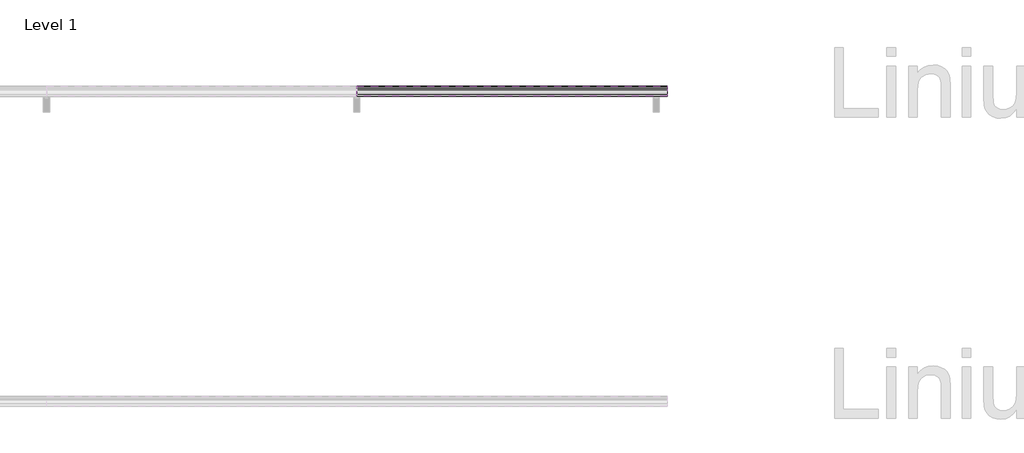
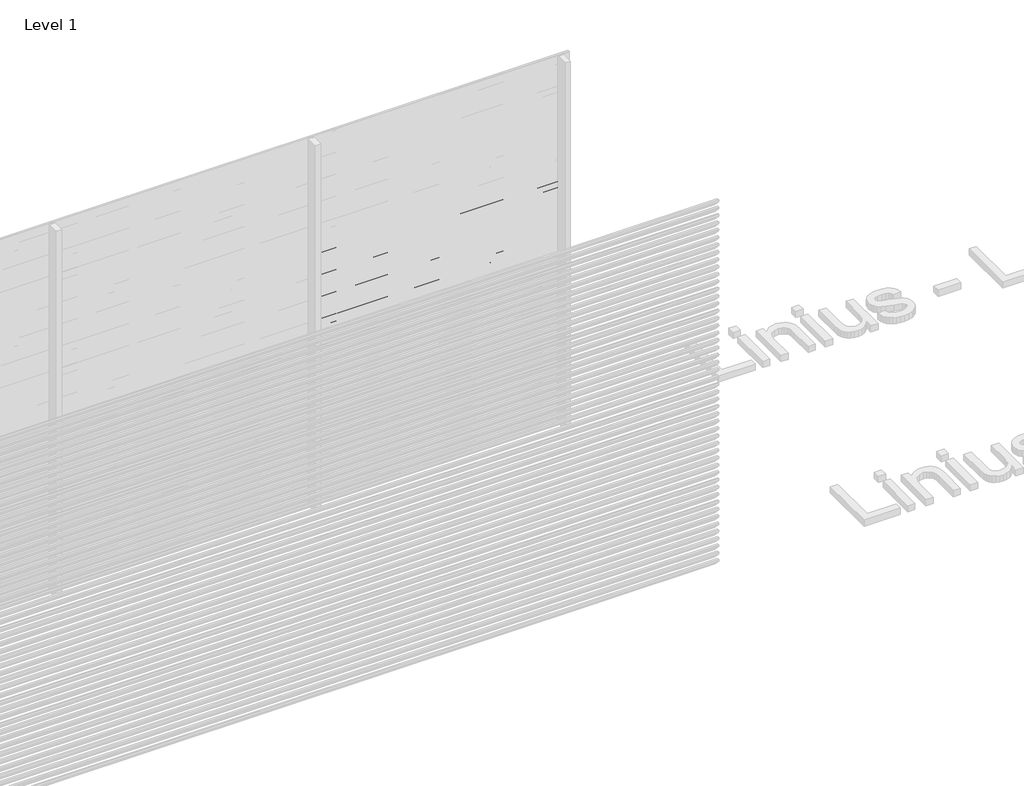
# One storey, part 64 of 153: 33 proxies.
"""IFC4 building model written with IfcOpenShell, lengths in millimetres."""

from ifc_helpers import new_model, si_unit, point, frame, frame_2d, origin, place, context, project, spatial, polyline, circle_curve, trimmed, segment, composite_curve, outline, extrude, element, save

model = new_model("IFC4")

# Units and contexts
model_context = context("Model", 3, world=origin())
ifc_project = project(units=[si_unit("LENGTHUNIT", "METRE", prefix="MILLI")], contexts=[model_context])

# Site, building, storey
site = spatial("IfcSite", under=ifc_project)
building = spatial("IfcBuilding", under=site)
storey = spatial("IfcBuildingStorey", under=building, Name="Level 1", Elevation=0.0)

# Proxies
placement = place(None, origin())
element("IfcBuildingElementProxy", 1, Name="Wall Sweeps", at=placement, inside=storey, context=model_context, shape_type="SweptSolid", body=[
    extrude(outline(composite_curve([segment(polyline([(28985.0540136, 2100.0), (28999.874191, 2098.7034025), (29049.0540136, 2045.0102749), (29049.0540136, 2033.6108187)]), True, "CONTINUOUS"), segment(trimmed(circle_curve(frame_2d((29045.7883652, 2033.897153)), 3.2781774), [point((29049.0540136, 2033.6108187))], [point((29046.4639442, 2030.6893438))], False, "CARTESIAN"), True, "CONTINUOUS"), segment(polyline([(29046.4639442, 2030.6893438), (29034.1895723, 2031.6282758), (28985.0540136, 2085.2730773), (28985.0540136, 2100.0)]), True, "CONTINUOUS")], self_intersect=False), holes=[composite_curve([segment(polyline([(28999.1621773, 2097.2599659), (28986.5540136, 2098.3630372), (28986.5540136, 2085.856213), (29034.8952036, 2033.0786805), (29046.3312542, 2032.2038762)]), True, "CONTINUOUS"), segment(trimmed(circle_curve(frame_2d((29045.7883652, 2033.897153)), 1.7781774), [point((29046.3312542, 2032.2038762))], [point((29047.5540136, 2033.6864389))], True, "CARTESIAN"), True, "CONTINUOUS"), segment(polyline([(29047.5540136, 2033.6864389), (29047.5540136, 2044.4271392), (28999.1621773, 2097.2599659)]), True, "CONTINUOUS")], self_intersect=False)]), frame((48966.6208096, 0.0, 0.0), z_axis=(1.0, 0.0, 0.0), x_axis=(0.0, 1.0, 0.0)), (0.0, 0.0, 1.0), 2000.0000001),
])
element("IfcBuildingElementProxy", 2, Name="Wall Sweeps", at=placement, inside=storey, context=model_context, shape_type="SweptSolid", body=[
    extrude(outline(composite_curve([segment(polyline([(28985.0540136, 2040.0), (28999.874191, 2038.7034025), (29049.0540136, 1985.0102749), (29049.0540136, 1973.6108187)]), True, "CONTINUOUS"), segment(trimmed(circle_curve(frame_2d((29045.7883652, 1973.897153)), 3.2781774), [point((29049.0540136, 1973.6108187))], [point((29046.4639442, 1970.6893438))], False, "CARTESIAN"), True, "CONTINUOUS"), segment(polyline([(29046.4639442, 1970.6893438), (29034.1895723, 1971.6282758), (28985.0540136, 2025.2730773), (28985.0540136, 2040.0)]), True, "CONTINUOUS")], self_intersect=False), holes=[composite_curve([segment(polyline([(28999.1621773, 2037.2599659), (28986.5540136, 2038.3630372), (28986.5540136, 2025.856213), (29034.8952036, 1973.0786805), (29046.3312542, 1972.2038762)]), True, "CONTINUOUS"), segment(trimmed(circle_curve(frame_2d((29045.7883652, 1973.897153)), 1.7781774), [point((29046.3312542, 1972.2038762))], [point((29047.5540136, 1973.6864389))], True, "CARTESIAN"), True, "CONTINUOUS"), segment(polyline([(29047.5540136, 1973.6864389), (29047.5540136, 1984.4271392), (28999.1621773, 2037.2599659)]), True, "CONTINUOUS")], self_intersect=False)]), frame((48966.6208096, 0.0, 0.0), z_axis=(1.0, 0.0, 0.0), x_axis=(0.0, 1.0, 0.0)), (0.0, 0.0, 1.0), 2000.0000001),
])
element("IfcBuildingElementProxy", 3, Name="Wall Sweeps", at=placement, inside=storey, context=model_context, shape_type="SweptSolid", body=[
    extrude(outline(composite_curve([segment(polyline([(28985.0540136, 1980.0), (28999.874191, 1978.7034025), (29049.0540136, 1925.0102749), (29049.0540136, 1913.6108187)]), True, "CONTINUOUS"), segment(trimmed(circle_curve(frame_2d((29045.7883652, 1913.897153)), 3.2781774), [point((29049.0540136, 1913.6108187))], [point((29046.4639442, 1910.6893438))], False, "CARTESIAN"), True, "CONTINUOUS"), segment(polyline([(29046.4639442, 1910.6893438), (29034.1895723, 1911.6282758), (28985.0540136, 1965.2730773), (28985.0540136, 1980.0)]), True, "CONTINUOUS")], self_intersect=False), holes=[composite_curve([segment(polyline([(28999.1621773, 1977.2599659), (28986.5540136, 1978.3630372), (28986.5540136, 1965.856213), (29034.8952036, 1913.0786805), (29046.3312542, 1912.2038762)]), True, "CONTINUOUS"), segment(trimmed(circle_curve(frame_2d((29045.7883652, 1913.897153)), 1.7781774), [point((29046.3312542, 1912.2038762))], [point((29047.5540136, 1913.6864389))], True, "CARTESIAN"), True, "CONTINUOUS"), segment(polyline([(29047.5540136, 1913.6864389), (29047.5540136, 1924.4271392), (28999.1621773, 1977.2599659)]), True, "CONTINUOUS")], self_intersect=False)]), frame((48966.6208096, 0.0, 0.0), z_axis=(1.0, 0.0, 0.0), x_axis=(0.0, 1.0, 0.0)), (0.0, 0.0, 1.0), 2000.0000001),
])
element("IfcBuildingElementProxy", 4, Name="Wall Sweeps", at=placement, inside=storey, context=model_context, shape_type="SweptSolid", body=[
    extrude(outline(composite_curve([segment(polyline([(28985.0540136, 1920.0), (28999.874191, 1918.7034025), (29049.0540136, 1865.0102749), (29049.0540136, 1853.6108187)]), True, "CONTINUOUS"), segment(trimmed(circle_curve(frame_2d((29045.7883652, 1853.897153)), 3.2781774), [point((29049.0540136, 1853.6108187))], [point((29046.4639442, 1850.6893438))], False, "CARTESIAN"), True, "CONTINUOUS"), segment(polyline([(29046.4639442, 1850.6893438), (29034.1895723, 1851.6282758), (28985.0540136, 1905.2730773), (28985.0540136, 1920.0)]), True, "CONTINUOUS")], self_intersect=False), holes=[composite_curve([segment(polyline([(28999.1621773, 1917.2599659), (28986.5540136, 1918.3630372), (28986.5540136, 1905.856213), (29034.8952036, 1853.0786805), (29046.3312542, 1852.2038762)]), True, "CONTINUOUS"), segment(trimmed(circle_curve(frame_2d((29045.7883652, 1853.897153)), 1.7781774), [point((29046.3312542, 1852.2038762))], [point((29047.5540136, 1853.6864389))], True, "CARTESIAN"), True, "CONTINUOUS"), segment(polyline([(29047.5540136, 1853.6864389), (29047.5540136, 1864.4271392), (28999.1621773, 1917.2599659)]), True, "CONTINUOUS")], self_intersect=False)]), frame((48966.6208096, 0.0, 0.0), z_axis=(1.0, 0.0, 0.0), x_axis=(0.0, 1.0, 0.0)), (0.0, 0.0, 1.0), 2000.0000001),
])
element("IfcBuildingElementProxy", 5, Name="Wall Sweeps", at=placement, inside=storey, context=model_context, shape_type="SweptSolid", body=[
    extrude(outline(composite_curve([segment(polyline([(28985.0540136, 1860.0), (28999.874191, 1858.7034025), (29049.0540136, 1805.0102749), (29049.0540136, 1793.6108187)]), True, "CONTINUOUS"), segment(trimmed(circle_curve(frame_2d((29045.7883652, 1793.897153)), 3.2781774), [point((29049.0540136, 1793.6108187))], [point((29046.4639442, 1790.6893438))], False, "CARTESIAN"), True, "CONTINUOUS"), segment(polyline([(29046.4639442, 1790.6893438), (29034.1895723, 1791.6282758), (28985.0540136, 1845.2730773), (28985.0540136, 1860.0)]), True, "CONTINUOUS")], self_intersect=False), holes=[composite_curve([segment(polyline([(28999.1621773, 1857.2599659), (28986.5540136, 1858.3630372), (28986.5540136, 1845.856213), (29034.8952036, 1793.0786805), (29046.3312542, 1792.2038762)]), True, "CONTINUOUS"), segment(trimmed(circle_curve(frame_2d((29045.7883652, 1793.897153)), 1.7781774), [point((29046.3312542, 1792.2038762))], [point((29047.5540136, 1793.6864389))], True, "CARTESIAN"), True, "CONTINUOUS"), segment(polyline([(29047.5540136, 1793.6864389), (29047.5540136, 1804.4271392), (28999.1621773, 1857.2599659)]), True, "CONTINUOUS")], self_intersect=False)]), frame((48966.6208096, 0.0, 0.0), z_axis=(1.0, 0.0, 0.0), x_axis=(0.0, 1.0, 0.0)), (0.0, 0.0, 1.0), 2000.0000001),
])
element("IfcBuildingElementProxy", 6, Name="Wall Sweeps", at=placement, inside=storey, context=model_context, shape_type="SweptSolid", body=[
    extrude(outline(composite_curve([segment(polyline([(28985.0540136, 1800.0), (28999.874191, 1798.7034025), (29049.0540136, 1745.0102749), (29049.0540136, 1733.6108187)]), True, "CONTINUOUS"), segment(trimmed(circle_curve(frame_2d((29045.7883652, 1733.897153)), 3.2781774), [point((29049.0540136, 1733.6108187))], [point((29046.4639442, 1730.6893438))], False, "CARTESIAN"), True, "CONTINUOUS"), segment(polyline([(29046.4639442, 1730.6893438), (29034.1895723, 1731.6282758), (28985.0540136, 1785.2730773), (28985.0540136, 1800.0)]), True, "CONTINUOUS")], self_intersect=False), holes=[composite_curve([segment(polyline([(28999.1621773, 1797.2599659), (28986.5540136, 1798.3630372), (28986.5540136, 1785.856213), (29034.8952036, 1733.0786805), (29046.3312542, 1732.2038762)]), True, "CONTINUOUS"), segment(trimmed(circle_curve(frame_2d((29045.7883652, 1733.897153)), 1.7781774), [point((29046.3312542, 1732.2038762))], [point((29047.5540136, 1733.6864389))], True, "CARTESIAN"), True, "CONTINUOUS"), segment(polyline([(29047.5540136, 1733.6864389), (29047.5540136, 1744.4271392), (28999.1621773, 1797.2599659)]), True, "CONTINUOUS")], self_intersect=False)]), frame((48966.6208096, 0.0, 0.0), z_axis=(1.0, 0.0, 0.0), x_axis=(0.0, 1.0, 0.0)), (0.0, 0.0, 1.0), 2000.0000001),
])
element("IfcBuildingElementProxy", 7, Name="Wall Sweeps", at=placement, inside=storey, context=model_context, shape_type="SweptSolid", body=[
    extrude(outline(composite_curve([segment(polyline([(28985.0540136, 1740.0), (28999.874191, 1738.7034025), (29049.0540136, 1685.0102749), (29049.0540136, 1673.6108187)]), True, "CONTINUOUS"), segment(trimmed(circle_curve(frame_2d((29045.7883652, 1673.897153)), 3.2781774), [point((29049.0540136, 1673.6108187))], [point((29046.4639442, 1670.6893438))], False, "CARTESIAN"), True, "CONTINUOUS"), segment(polyline([(29046.4639442, 1670.6893438), (29034.1895723, 1671.6282758), (28985.0540136, 1725.2730773), (28985.0540136, 1740.0)]), True, "CONTINUOUS")], self_intersect=False), holes=[composite_curve([segment(polyline([(28999.1621773, 1737.2599659), (28986.5540136, 1738.3630372), (28986.5540136, 1725.856213), (29034.8952036, 1673.0786805), (29046.3312542, 1672.2038762)]), True, "CONTINUOUS"), segment(trimmed(circle_curve(frame_2d((29045.7883652, 1673.897153)), 1.7781774), [point((29046.3312542, 1672.2038762))], [point((29047.5540136, 1673.6864389))], True, "CARTESIAN"), True, "CONTINUOUS"), segment(polyline([(29047.5540136, 1673.6864389), (29047.5540136, 1684.4271392), (28999.1621773, 1737.2599659)]), True, "CONTINUOUS")], self_intersect=False)]), frame((48966.6208096, 0.0, 0.0), z_axis=(1.0, 0.0, 0.0), x_axis=(0.0, 1.0, 0.0)), (0.0, 0.0, 1.0), 2000.0000001),
])
element("IfcBuildingElementProxy", 8, Name="Wall Sweeps", at=placement, inside=storey, context=model_context, shape_type="SweptSolid", body=[
    extrude(outline(composite_curve([segment(polyline([(28985.0540136, 1680.0), (28999.874191, 1678.7034025), (29049.0540136, 1625.0102749), (29049.0540136, 1613.6108187)]), True, "CONTINUOUS"), segment(trimmed(circle_curve(frame_2d((29045.7883652, 1613.897153)), 3.2781774), [point((29049.0540136, 1613.6108187))], [point((29046.4639442, 1610.6893438))], False, "CARTESIAN"), True, "CONTINUOUS"), segment(polyline([(29046.4639442, 1610.6893438), (29034.1895723, 1611.6282758), (28985.0540136, 1665.2730773), (28985.0540136, 1680.0)]), True, "CONTINUOUS")], self_intersect=False), holes=[composite_curve([segment(polyline([(28999.1621773, 1677.2599659), (28986.5540136, 1678.3630372), (28986.5540136, 1665.856213), (29034.8952036, 1613.0786805), (29046.3312542, 1612.2038762)]), True, "CONTINUOUS"), segment(trimmed(circle_curve(frame_2d((29045.7883652, 1613.897153)), 1.7781774), [point((29046.3312542, 1612.2038762))], [point((29047.5540136, 1613.6864389))], True, "CARTESIAN"), True, "CONTINUOUS"), segment(polyline([(29047.5540136, 1613.6864389), (29047.5540136, 1624.4271392), (28999.1621773, 1677.2599659)]), True, "CONTINUOUS")], self_intersect=False)]), frame((48966.6208096, 0.0, 0.0), z_axis=(1.0, 0.0, 0.0), x_axis=(0.0, 1.0, 0.0)), (0.0, 0.0, 1.0), 2000.0000001),
])
element("IfcBuildingElementProxy", 9, Name="Wall Sweeps", at=placement, inside=storey, context=model_context, shape_type="SweptSolid", body=[
    extrude(outline(composite_curve([segment(polyline([(28985.0540136, 1620.0), (28999.874191, 1618.7034025), (29049.0540136, 1565.0102749), (29049.0540136, 1553.6108187)]), True, "CONTINUOUS"), segment(trimmed(circle_curve(frame_2d((29045.7883652, 1553.897153)), 3.2781774), [point((29049.0540136, 1553.6108187))], [point((29046.4639442, 1550.6893438))], False, "CARTESIAN"), True, "CONTINUOUS"), segment(polyline([(29046.4639442, 1550.6893438), (29034.1895723, 1551.6282758), (28985.0540136, 1605.2730773), (28985.0540136, 1620.0)]), True, "CONTINUOUS")], self_intersect=False), holes=[composite_curve([segment(polyline([(28999.1621773, 1617.2599659), (28986.5540136, 1618.3630372), (28986.5540136, 1605.856213), (29034.8952036, 1553.0786805), (29046.3312542, 1552.2038762)]), True, "CONTINUOUS"), segment(trimmed(circle_curve(frame_2d((29045.7883652, 1553.897153)), 1.7781774), [point((29046.3312542, 1552.2038762))], [point((29047.5540136, 1553.6864389))], True, "CARTESIAN"), True, "CONTINUOUS"), segment(polyline([(29047.5540136, 1553.6864389), (29047.5540136, 1564.4271392), (28999.1621773, 1617.2599659)]), True, "CONTINUOUS")], self_intersect=False)]), frame((48966.6208096, 0.0, 0.0), z_axis=(1.0, 0.0, 0.0), x_axis=(0.0, 1.0, 0.0)), (0.0, 0.0, 1.0), 2000.0000001),
])
element("IfcBuildingElementProxy", 10, Name="Wall Sweeps", at=placement, inside=storey, context=model_context, shape_type="SweptSolid", body=[
    extrude(outline(composite_curve([segment(polyline([(28985.0540136, 1560.0), (28999.874191, 1558.7034025), (29049.0540136, 1505.0102749), (29049.0540136, 1493.6108187)]), True, "CONTINUOUS"), segment(trimmed(circle_curve(frame_2d((29045.7883652, 1493.897153)), 3.2781774), [point((29049.0540136, 1493.6108187))], [point((29046.4639442, 1490.6893438))], False, "CARTESIAN"), True, "CONTINUOUS"), segment(polyline([(29046.4639442, 1490.6893438), (29034.1895723, 1491.6282758), (28985.0540136, 1545.2730773), (28985.0540136, 1560.0)]), True, "CONTINUOUS")], self_intersect=False), holes=[composite_curve([segment(polyline([(28999.1621773, 1557.2599659), (28986.5540136, 1558.3630372), (28986.5540136, 1545.856213), (29034.8952036, 1493.0786805), (29046.3312542, 1492.2038762)]), True, "CONTINUOUS"), segment(trimmed(circle_curve(frame_2d((29045.7883652, 1493.897153)), 1.7781774), [point((29046.3312542, 1492.2038762))], [point((29047.5540136, 1493.6864389))], True, "CARTESIAN"), True, "CONTINUOUS"), segment(polyline([(29047.5540136, 1493.6864389), (29047.5540136, 1504.4271392), (28999.1621773, 1557.2599659)]), True, "CONTINUOUS")], self_intersect=False)]), frame((48966.6208096, 0.0, 0.0), z_axis=(1.0, 0.0, 0.0), x_axis=(0.0, 1.0, 0.0)), (0.0, 0.0, 1.0), 2000.0000001),
])
element("IfcBuildingElementProxy", 11, Name="Wall Sweeps", at=placement, inside=storey, context=model_context, shape_type="SweptSolid", body=[
    extrude(outline(composite_curve([segment(polyline([(28985.0540136, 1500.0), (28999.874191, 1498.7034025), (29049.0540136, 1445.0102749), (29049.0540136, 1433.6108187)]), True, "CONTINUOUS"), segment(trimmed(circle_curve(frame_2d((29045.7883652, 1433.897153)), 3.2781774), [point((29049.0540136, 1433.6108187))], [point((29046.4639442, 1430.6893438))], False, "CARTESIAN"), True, "CONTINUOUS"), segment(polyline([(29046.4639442, 1430.6893438), (29034.1895723, 1431.6282758), (28985.0540136, 1485.2730773), (28985.0540136, 1500.0)]), True, "CONTINUOUS")], self_intersect=False), holes=[composite_curve([segment(polyline([(28999.1621773, 1497.2599659), (28986.5540136, 1498.3630372), (28986.5540136, 1485.856213), (29034.8952036, 1433.0786805), (29046.3312542, 1432.2038762)]), True, "CONTINUOUS"), segment(trimmed(circle_curve(frame_2d((29045.7883652, 1433.897153)), 1.7781774), [point((29046.3312542, 1432.2038762))], [point((29047.5540136, 1433.6864389))], True, "CARTESIAN"), True, "CONTINUOUS"), segment(polyline([(29047.5540136, 1433.6864389), (29047.5540136, 1444.4271392), (28999.1621773, 1497.2599659)]), True, "CONTINUOUS")], self_intersect=False)]), frame((48966.6208096, 0.0, 0.0), z_axis=(1.0, 0.0, 0.0), x_axis=(0.0, 1.0, 0.0)), (0.0, 0.0, 1.0), 2000.0000001),
])
element("IfcBuildingElementProxy", 12, Name="Wall Sweeps", at=placement, inside=storey, context=model_context, shape_type="SweptSolid", body=[
    extrude(outline(composite_curve([segment(polyline([(28985.0540136, 1440.0), (28999.874191, 1438.7034025), (29049.0540136, 1385.0102749), (29049.0540136, 1373.6108187)]), True, "CONTINUOUS"), segment(trimmed(circle_curve(frame_2d((29045.7883652, 1373.897153)), 3.2781774), [point((29049.0540136, 1373.6108187))], [point((29046.4639442, 1370.6893438))], False, "CARTESIAN"), True, "CONTINUOUS"), segment(polyline([(29046.4639442, 1370.6893438), (29034.1895723, 1371.6282758), (28985.0540136, 1425.2730773), (28985.0540136, 1440.0)]), True, "CONTINUOUS")], self_intersect=False), holes=[composite_curve([segment(polyline([(28999.1621773, 1437.2599659), (28986.5540136, 1438.3630372), (28986.5540136, 1425.856213), (29034.8952036, 1373.0786805), (29046.3312542, 1372.2038762)]), True, "CONTINUOUS"), segment(trimmed(circle_curve(frame_2d((29045.7883652, 1373.897153)), 1.7781774), [point((29046.3312542, 1372.2038762))], [point((29047.5540136, 1373.6864389))], True, "CARTESIAN"), True, "CONTINUOUS"), segment(polyline([(29047.5540136, 1373.6864389), (29047.5540136, 1384.4271392), (28999.1621773, 1437.2599659)]), True, "CONTINUOUS")], self_intersect=False)]), frame((48966.6208096, 0.0, 0.0), z_axis=(1.0, 0.0, 0.0), x_axis=(0.0, 1.0, 0.0)), (0.0, 0.0, 1.0), 2000.0000001),
])
element("IfcBuildingElementProxy", 13, Name="Wall Sweeps", at=placement, inside=storey, context=model_context, shape_type="SweptSolid", body=[
    extrude(outline(composite_curve([segment(polyline([(28985.0540136, 1380.0), (28999.874191, 1378.7034025), (29049.0540136, 1325.0102749), (29049.0540136, 1313.6108187)]), True, "CONTINUOUS"), segment(trimmed(circle_curve(frame_2d((29045.7883652, 1313.897153)), 3.2781774), [point((29049.0540136, 1313.6108187))], [point((29046.4639442, 1310.6893438))], False, "CARTESIAN"), True, "CONTINUOUS"), segment(polyline([(29046.4639442, 1310.6893438), (29034.1895723, 1311.6282758), (28985.0540136, 1365.2730773), (28985.0540136, 1380.0)]), True, "CONTINUOUS")], self_intersect=False), holes=[composite_curve([segment(polyline([(28999.1621773, 1377.2599659), (28986.5540136, 1378.3630372), (28986.5540136, 1365.856213), (29034.8952036, 1313.0786805), (29046.3312542, 1312.2038762)]), True, "CONTINUOUS"), segment(trimmed(circle_curve(frame_2d((29045.7883652, 1313.897153)), 1.7781774), [point((29046.3312542, 1312.2038762))], [point((29047.5540136, 1313.6864389))], True, "CARTESIAN"), True, "CONTINUOUS"), segment(polyline([(29047.5540136, 1313.6864389), (29047.5540136, 1324.4271392), (28999.1621773, 1377.2599659)]), True, "CONTINUOUS")], self_intersect=False)]), frame((48966.6208096, 0.0, 0.0), z_axis=(1.0, 0.0, 0.0), x_axis=(0.0, 1.0, 0.0)), (0.0, 0.0, 1.0), 2000.0000001),
])
element("IfcBuildingElementProxy", 14, Name="Wall Sweeps", at=placement, inside=storey, context=model_context, shape_type="SweptSolid", body=[
    extrude(outline(composite_curve([segment(polyline([(28985.0540136, 1320.0), (28999.874191, 1318.7034025), (29049.0540136, 1265.0102749), (29049.0540136, 1253.6108187)]), True, "CONTINUOUS"), segment(trimmed(circle_curve(frame_2d((29045.7883652, 1253.897153)), 3.2781774), [point((29049.0540136, 1253.6108187))], [point((29046.4639442, 1250.6893438))], False, "CARTESIAN"), True, "CONTINUOUS"), segment(polyline([(29046.4639442, 1250.6893438), (29034.1895723, 1251.6282758), (28985.0540136, 1305.2730773), (28985.0540136, 1320.0)]), True, "CONTINUOUS")], self_intersect=False), holes=[composite_curve([segment(polyline([(28999.1621773, 1317.2599659), (28986.5540136, 1318.3630372), (28986.5540136, 1305.856213), (29034.8952036, 1253.0786805), (29046.3312542, 1252.2038762)]), True, "CONTINUOUS"), segment(trimmed(circle_curve(frame_2d((29045.7883652, 1253.897153)), 1.7781774), [point((29046.3312542, 1252.2038762))], [point((29047.5540136, 1253.6864389))], True, "CARTESIAN"), True, "CONTINUOUS"), segment(polyline([(29047.5540136, 1253.6864389), (29047.5540136, 1264.4271392), (28999.1621773, 1317.2599659)]), True, "CONTINUOUS")], self_intersect=False)]), frame((48966.6208096, 0.0, 0.0), z_axis=(1.0, 0.0, 0.0), x_axis=(0.0, 1.0, 0.0)), (0.0, 0.0, 1.0), 2000.0000001),
])
element("IfcBuildingElementProxy", 15, Name="Wall Sweeps", at=placement, inside=storey, context=model_context, shape_type="SweptSolid", body=[
    extrude(outline(composite_curve([segment(polyline([(28985.0540136, 1260.0), (28999.874191, 1258.7034025), (29049.0540136, 1205.0102749), (29049.0540136, 1193.6108187)]), True, "CONTINUOUS"), segment(trimmed(circle_curve(frame_2d((29045.7883652, 1193.897153)), 3.2781774), [point((29049.0540136, 1193.6108187))], [point((29046.4639442, 1190.6893438))], False, "CARTESIAN"), True, "CONTINUOUS"), segment(polyline([(29046.4639442, 1190.6893438), (29034.1895723, 1191.6282758), (28985.0540136, 1245.2730773), (28985.0540136, 1260.0)]), True, "CONTINUOUS")], self_intersect=False), holes=[composite_curve([segment(polyline([(28999.1621773, 1257.2599659), (28986.5540136, 1258.3630372), (28986.5540136, 1245.856213), (29034.8952036, 1193.0786805), (29046.3312542, 1192.2038762)]), True, "CONTINUOUS"), segment(trimmed(circle_curve(frame_2d((29045.7883652, 1193.897153)), 1.7781774), [point((29046.3312542, 1192.2038762))], [point((29047.5540136, 1193.6864389))], True, "CARTESIAN"), True, "CONTINUOUS"), segment(polyline([(29047.5540136, 1193.6864389), (29047.5540136, 1204.4271392), (28999.1621773, 1257.2599659)]), True, "CONTINUOUS")], self_intersect=False)]), frame((48966.6208096, 0.0, 0.0), z_axis=(1.0, 0.0, 0.0), x_axis=(0.0, 1.0, 0.0)), (0.0, 0.0, 1.0), 2000.0000001),
])
element("IfcBuildingElementProxy", 16, Name="Wall Sweeps", at=placement, inside=storey, context=model_context, shape_type="SweptSolid", body=[
    extrude(outline(composite_curve([segment(polyline([(28985.0540136, 1200.0), (28999.874191, 1198.7034025), (29049.0540136, 1145.0102749), (29049.0540136, 1133.6108187)]), True, "CONTINUOUS"), segment(trimmed(circle_curve(frame_2d((29045.7883652, 1133.897153)), 3.2781774), [point((29049.0540136, 1133.6108187))], [point((29046.4639442, 1130.6893438))], False, "CARTESIAN"), True, "CONTINUOUS"), segment(polyline([(29046.4639442, 1130.6893438), (29034.1895723, 1131.6282758), (28985.0540136, 1185.2730773), (28985.0540136, 1200.0)]), True, "CONTINUOUS")], self_intersect=False), holes=[composite_curve([segment(polyline([(28999.1621773, 1197.2599659), (28986.5540136, 1198.3630372), (28986.5540136, 1185.856213), (29034.8952036, 1133.0786805), (29046.3312542, 1132.2038762)]), True, "CONTINUOUS"), segment(trimmed(circle_curve(frame_2d((29045.7883652, 1133.897153)), 1.7781774), [point((29046.3312542, 1132.2038762))], [point((29047.5540136, 1133.6864389))], True, "CARTESIAN"), True, "CONTINUOUS"), segment(polyline([(29047.5540136, 1133.6864389), (29047.5540136, 1144.4271392), (28999.1621773, 1197.2599659)]), True, "CONTINUOUS")], self_intersect=False)]), frame((48966.6208096, 0.0, 0.0), z_axis=(1.0, 0.0, 0.0), x_axis=(0.0, 1.0, 0.0)), (0.0, 0.0, 1.0), 2000.0000001),
])
element("IfcBuildingElementProxy", 17, Name="Wall Sweeps", at=placement, inside=storey, context=model_context, shape_type="SweptSolid", body=[
    extrude(outline(composite_curve([segment(polyline([(28985.0540136, 1140.0), (28999.874191, 1138.7034025), (29049.0540136, 1085.0102749), (29049.0540136, 1073.6108187)]), True, "CONTINUOUS"), segment(trimmed(circle_curve(frame_2d((29045.7883652, 1073.897153)), 3.2781774), [point((29049.0540136, 1073.6108187))], [point((29046.4639442, 1070.6893438))], False, "CARTESIAN"), True, "CONTINUOUS"), segment(polyline([(29046.4639442, 1070.6893438), (29034.1895723, 1071.6282758), (28985.0540136, 1125.2730773), (28985.0540136, 1140.0)]), True, "CONTINUOUS")], self_intersect=False), holes=[composite_curve([segment(polyline([(28999.1621773, 1137.2599659), (28986.5540136, 1138.3630372), (28986.5540136, 1125.856213), (29034.8952036, 1073.0786805), (29046.3312542, 1072.2038762)]), True, "CONTINUOUS"), segment(trimmed(circle_curve(frame_2d((29045.7883652, 1073.897153)), 1.7781774), [point((29046.3312542, 1072.2038762))], [point((29047.5540136, 1073.6864389))], True, "CARTESIAN"), True, "CONTINUOUS"), segment(polyline([(29047.5540136, 1073.6864389), (29047.5540136, 1084.4271392), (28999.1621773, 1137.2599659)]), True, "CONTINUOUS")], self_intersect=False)]), frame((48966.6208096, 0.0, 0.0), z_axis=(1.0, 0.0, 0.0), x_axis=(0.0, 1.0, 0.0)), (0.0, 0.0, 1.0), 2000.0000001),
])
element("IfcBuildingElementProxy", 18, Name="Wall Sweeps", at=placement, inside=storey, context=model_context, shape_type="SweptSolid", body=[
    extrude(outline(composite_curve([segment(polyline([(28985.0540136, 1080.0), (28999.874191, 1078.7034025), (29049.0540136, 1025.0102749), (29049.0540136, 1013.6108187)]), True, "CONTINUOUS"), segment(trimmed(circle_curve(frame_2d((29045.7883652, 1013.897153)), 3.2781774), [point((29049.0540136, 1013.6108187))], [point((29046.4639442, 1010.6893438))], False, "CARTESIAN"), True, "CONTINUOUS"), segment(polyline([(29046.4639442, 1010.6893438), (29034.1895723, 1011.6282758), (28985.0540136, 1065.2730773), (28985.0540136, 1080.0)]), True, "CONTINUOUS")], self_intersect=False), holes=[composite_curve([segment(polyline([(28999.1621773, 1077.2599659), (28986.5540136, 1078.3630372), (28986.5540136, 1065.856213), (29034.8952036, 1013.0786805), (29046.3312542, 1012.2038762)]), True, "CONTINUOUS"), segment(trimmed(circle_curve(frame_2d((29045.7883652, 1013.897153)), 1.7781774), [point((29046.3312542, 1012.2038762))], [point((29047.5540136, 1013.6864389))], True, "CARTESIAN"), True, "CONTINUOUS"), segment(polyline([(29047.5540136, 1013.6864389), (29047.5540136, 1024.4271392), (28999.1621773, 1077.2599659)]), True, "CONTINUOUS")], self_intersect=False)]), frame((48966.6208096, 0.0, 0.0), z_axis=(1.0, 0.0, 0.0), x_axis=(0.0, 1.0, 0.0)), (0.0, 0.0, 1.0), 2000.0000001),
])
element("IfcBuildingElementProxy", 19, Name="Wall Sweeps", at=placement, inside=storey, context=model_context, shape_type="SweptSolid", body=[
    extrude(outline(composite_curve([segment(polyline([(28985.0540136, 1020.0), (28999.874191, 1018.7034025), (29049.0540136, 965.0102749), (29049.0540136, 953.6108187)]), True, "CONTINUOUS"), segment(trimmed(circle_curve(frame_2d((29045.7883652, 953.897153)), 3.2781774), [point((29049.0540136, 953.6108187))], [point((29046.4639442, 950.6893438))], False, "CARTESIAN"), True, "CONTINUOUS"), segment(polyline([(29046.4639442, 950.6893438), (29034.1895723, 951.6282758), (28985.0540136, 1005.2730773), (28985.0540136, 1020.0)]), True, "CONTINUOUS")], self_intersect=False), holes=[composite_curve([segment(polyline([(28999.1621773, 1017.2599659), (28986.5540136, 1018.3630372), (28986.5540136, 1005.856213), (29034.8952036, 953.0786805), (29046.3312542, 952.2038762)]), True, "CONTINUOUS"), segment(trimmed(circle_curve(frame_2d((29045.7883652, 953.897153)), 1.7781774), [point((29046.3312542, 952.2038762))], [point((29047.5540136, 953.6864389))], True, "CARTESIAN"), True, "CONTINUOUS"), segment(polyline([(29047.5540136, 953.6864389), (29047.5540136, 964.4271392), (28999.1621773, 1017.2599659)]), True, "CONTINUOUS")], self_intersect=False)]), frame((48966.6208096, 0.0, 0.0), z_axis=(1.0, 0.0, 0.0), x_axis=(0.0, 1.0, 0.0)), (0.0, 0.0, 1.0), 2000.0000001),
])
element("IfcBuildingElementProxy", 20, Name="Wall Sweeps", at=placement, inside=storey, context=model_context, shape_type="SweptSolid", body=[
    extrude(outline(composite_curve([segment(polyline([(28985.0540136, 960.0), (28999.874191, 958.7034025), (29049.0540136, 905.0102749), (29049.0540136, 893.6108187)]), True, "CONTINUOUS"), segment(trimmed(circle_curve(frame_2d((29045.7883652, 893.897153)), 3.2781774), [point((29049.0540136, 893.6108187))], [point((29046.4639442, 890.6893438))], False, "CARTESIAN"), True, "CONTINUOUS"), segment(polyline([(29046.4639442, 890.6893438), (29034.1895723, 891.6282758), (28985.0540136, 945.2730773), (28985.0540136, 960.0)]), True, "CONTINUOUS")], self_intersect=False), holes=[composite_curve([segment(polyline([(28999.1621773, 957.2599659), (28986.5540136, 958.3630372), (28986.5540136, 945.856213), (29034.8952036, 893.0786805), (29046.3312542, 892.2038762)]), True, "CONTINUOUS"), segment(trimmed(circle_curve(frame_2d((29045.7883652, 893.897153)), 1.7781774), [point((29046.3312542, 892.2038762))], [point((29047.5540136, 893.6864389))], True, "CARTESIAN"), True, "CONTINUOUS"), segment(polyline([(29047.5540136, 893.6864389), (29047.5540136, 904.4271392), (28999.1621773, 957.2599659)]), True, "CONTINUOUS")], self_intersect=False)]), frame((48966.6208096, 0.0, 0.0), z_axis=(1.0, 0.0, 0.0), x_axis=(0.0, 1.0, 0.0)), (0.0, 0.0, 1.0), 2000.0000001),
])
element("IfcBuildingElementProxy", 21, Name="Wall Sweeps", at=placement, inside=storey, context=model_context, shape_type="SweptSolid", body=[
    extrude(outline(composite_curve([segment(polyline([(28985.0540136, 900.0), (28999.874191, 898.7034025), (29049.0540136, 845.0102749), (29049.0540136, 833.6108187)]), True, "CONTINUOUS"), segment(trimmed(circle_curve(frame_2d((29045.7883652, 833.897153)), 3.2781774), [point((29049.0540136, 833.6108187))], [point((29046.4639442, 830.6893438))], False, "CARTESIAN"), True, "CONTINUOUS"), segment(polyline([(29046.4639442, 830.6893438), (29034.1895723, 831.6282758), (28985.0540136, 885.2730773), (28985.0540136, 900.0)]), True, "CONTINUOUS")], self_intersect=False), holes=[composite_curve([segment(polyline([(28999.1621773, 897.2599659), (28986.5540136, 898.3630372), (28986.5540136, 885.856213), (29034.8952036, 833.0786805), (29046.3312542, 832.2038762)]), True, "CONTINUOUS"), segment(trimmed(circle_curve(frame_2d((29045.7883652, 833.897153)), 1.7781774), [point((29046.3312542, 832.2038762))], [point((29047.5540136, 833.6864389))], True, "CARTESIAN"), True, "CONTINUOUS"), segment(polyline([(29047.5540136, 833.6864389), (29047.5540136, 844.4271392), (28999.1621773, 897.2599659)]), True, "CONTINUOUS")], self_intersect=False)]), frame((48966.6208096, 0.0, 0.0), z_axis=(1.0, 0.0, 0.0), x_axis=(0.0, 1.0, 0.0)), (0.0, 0.0, 1.0), 2000.0000001),
])
element("IfcBuildingElementProxy", 22, Name="Wall Sweeps", at=placement, inside=storey, context=model_context, shape_type="SweptSolid", body=[
    extrude(outline(composite_curve([segment(polyline([(28985.0540136, 840.0), (28999.874191, 838.7034025), (29049.0540136, 785.0102749), (29049.0540136, 773.6108187)]), True, "CONTINUOUS"), segment(trimmed(circle_curve(frame_2d((29045.7883652, 773.897153)), 3.2781774), [point((29049.0540136, 773.6108187))], [point((29046.4639442, 770.6893438))], False, "CARTESIAN"), True, "CONTINUOUS"), segment(polyline([(29046.4639442, 770.6893438), (29034.1895723, 771.6282758), (28985.0540136, 825.2730773), (28985.0540136, 840.0)]), True, "CONTINUOUS")], self_intersect=False), holes=[composite_curve([segment(polyline([(28999.1621773, 837.2599659), (28986.5540136, 838.3630372), (28986.5540136, 825.856213), (29034.8952036, 773.0786805), (29046.3312542, 772.2038762)]), True, "CONTINUOUS"), segment(trimmed(circle_curve(frame_2d((29045.7883652, 773.897153)), 1.7781774), [point((29046.3312542, 772.2038762))], [point((29047.5540136, 773.6864389))], True, "CARTESIAN"), True, "CONTINUOUS"), segment(polyline([(29047.5540136, 773.6864389), (29047.5540136, 784.4271392), (28999.1621773, 837.2599659)]), True, "CONTINUOUS")], self_intersect=False)]), frame((48966.6208096, 0.0, 0.0), z_axis=(1.0, 0.0, 0.0), x_axis=(0.0, 1.0, 0.0)), (0.0, 0.0, 1.0), 2000.0000001),
])
element("IfcBuildingElementProxy", 23, Name="Wall Sweeps", at=placement, inside=storey, context=model_context, shape_type="SweptSolid", body=[
    extrude(outline(composite_curve([segment(polyline([(28985.0540136, 780.0), (28999.874191, 778.7034025), (29049.0540136, 725.0102749), (29049.0540136, 713.6108187)]), True, "CONTINUOUS"), segment(trimmed(circle_curve(frame_2d((29045.7883652, 713.897153)), 3.2781774), [point((29049.0540136, 713.6108187))], [point((29046.4639442, 710.6893438))], False, "CARTESIAN"), True, "CONTINUOUS"), segment(polyline([(29046.4639442, 710.6893438), (29034.1895723, 711.6282758), (28985.0540136, 765.2730773), (28985.0540136, 780.0)]), True, "CONTINUOUS")], self_intersect=False), holes=[composite_curve([segment(polyline([(28999.1621773, 777.2599659), (28986.5540136, 778.3630372), (28986.5540136, 765.856213), (29034.8952036, 713.0786805), (29046.3312542, 712.2038762)]), True, "CONTINUOUS"), segment(trimmed(circle_curve(frame_2d((29045.7883652, 713.897153)), 1.7781774), [point((29046.3312542, 712.2038762))], [point((29047.5540136, 713.6864389))], True, "CARTESIAN"), True, "CONTINUOUS"), segment(polyline([(29047.5540136, 713.6864389), (29047.5540136, 724.4271392), (28999.1621773, 777.2599659)]), True, "CONTINUOUS")], self_intersect=False)]), frame((48966.6208096, 0.0, 0.0), z_axis=(1.0, 0.0, 0.0), x_axis=(0.0, 1.0, 0.0)), (0.0, 0.0, 1.0), 2000.0000001),
])
element("IfcBuildingElementProxy", 24, Name="Wall Sweeps", at=placement, inside=storey, context=model_context, shape_type="SweptSolid", body=[
    extrude(outline(composite_curve([segment(polyline([(28985.0540136, 720.0), (28999.874191, 718.7034025), (29049.0540136, 665.0102749), (29049.0540136, 653.6108187)]), True, "CONTINUOUS"), segment(trimmed(circle_curve(frame_2d((29045.7883652, 653.897153)), 3.2781774), [point((29049.0540136, 653.6108187))], [point((29046.4639442, 650.6893438))], False, "CARTESIAN"), True, "CONTINUOUS"), segment(polyline([(29046.4639442, 650.6893438), (29034.1895723, 651.6282758), (28985.0540136, 705.2730773), (28985.0540136, 720.0)]), True, "CONTINUOUS")], self_intersect=False), holes=[composite_curve([segment(polyline([(28999.1621773, 717.2599659), (28986.5540136, 718.3630372), (28986.5540136, 705.856213), (29034.8952036, 653.0786805), (29046.3312542, 652.2038762)]), True, "CONTINUOUS"), segment(trimmed(circle_curve(frame_2d((29045.7883652, 653.897153)), 1.7781774), [point((29046.3312542, 652.2038762))], [point((29047.5540136, 653.6864389))], True, "CARTESIAN"), True, "CONTINUOUS"), segment(polyline([(29047.5540136, 653.6864389), (29047.5540136, 664.4271392), (28999.1621773, 717.2599659)]), True, "CONTINUOUS")], self_intersect=False)]), frame((48966.6208096, 0.0, 0.0), z_axis=(1.0, 0.0, 0.0), x_axis=(0.0, 1.0, 0.0)), (0.0, 0.0, 1.0), 2000.0000001),
])
element("IfcBuildingElementProxy", 25, Name="Wall Sweeps", at=placement, inside=storey, context=model_context, shape_type="SweptSolid", body=[
    extrude(outline(composite_curve([segment(polyline([(28985.0540136, 660.0), (28999.874191, 658.7034025), (29049.0540136, 605.0102749), (29049.0540136, 593.6108187)]), True, "CONTINUOUS"), segment(trimmed(circle_curve(frame_2d((29045.7883652, 593.897153)), 3.2781774), [point((29049.0540136, 593.6108187))], [point((29046.4639442, 590.6893438))], False, "CARTESIAN"), True, "CONTINUOUS"), segment(polyline([(29046.4639442, 590.6893438), (29034.1895723, 591.6282758), (28985.0540136, 645.2730773), (28985.0540136, 660.0)]), True, "CONTINUOUS")], self_intersect=False), holes=[composite_curve([segment(polyline([(28999.1621773, 657.2599659), (28986.5540136, 658.3630372), (28986.5540136, 645.856213), (29034.8952036, 593.0786805), (29046.3312542, 592.2038762)]), True, "CONTINUOUS"), segment(trimmed(circle_curve(frame_2d((29045.7883652, 593.897153)), 1.7781774), [point((29046.3312542, 592.2038762))], [point((29047.5540136, 593.6864389))], True, "CARTESIAN"), True, "CONTINUOUS"), segment(polyline([(29047.5540136, 593.6864389), (29047.5540136, 604.4271392), (28999.1621773, 657.2599659)]), True, "CONTINUOUS")], self_intersect=False)]), frame((48966.6208096, 0.0, 0.0), z_axis=(1.0, 0.0, 0.0), x_axis=(0.0, 1.0, 0.0)), (0.0, 0.0, 1.0), 2000.0000001),
])
element("IfcBuildingElementProxy", 26, Name="Wall Sweeps", at=placement, inside=storey, context=model_context, shape_type="SweptSolid", body=[
    extrude(outline(composite_curve([segment(polyline([(28985.0540136, 600.0), (28999.874191, 598.7034025), (29049.0540136, 545.0102749), (29049.0540136, 533.6108187)]), True, "CONTINUOUS"), segment(trimmed(circle_curve(frame_2d((29045.7883652, 533.897153)), 3.2781774), [point((29049.0540136, 533.6108187))], [point((29046.4639442, 530.6893438))], False, "CARTESIAN"), True, "CONTINUOUS"), segment(polyline([(29046.4639442, 530.6893438), (29034.1895723, 531.6282758), (28985.0540136, 585.2730773), (28985.0540136, 600.0)]), True, "CONTINUOUS")], self_intersect=False), holes=[composite_curve([segment(polyline([(28999.1621773, 597.2599659), (28986.5540136, 598.3630372), (28986.5540136, 585.856213), (29034.8952036, 533.0786805), (29046.3312542, 532.2038762)]), True, "CONTINUOUS"), segment(trimmed(circle_curve(frame_2d((29045.7883652, 533.897153)), 1.7781774), [point((29046.3312542, 532.2038762))], [point((29047.5540136, 533.6864389))], True, "CARTESIAN"), True, "CONTINUOUS"), segment(polyline([(29047.5540136, 533.6864389), (29047.5540136, 544.4271392), (28999.1621773, 597.2599659)]), True, "CONTINUOUS")], self_intersect=False)]), frame((48966.6208096, 0.0, 0.0), z_axis=(1.0, 0.0, 0.0), x_axis=(0.0, 1.0, 0.0)), (0.0, 0.0, 1.0), 2000.0000001),
])
element("IfcBuildingElementProxy", 27, Name="Wall Sweeps", at=placement, inside=storey, context=model_context, shape_type="SweptSolid", body=[
    extrude(outline(composite_curve([segment(polyline([(28985.0540136, 540.0), (28999.874191, 538.7034025), (29049.0540136, 485.0102749), (29049.0540136, 473.6108187)]), True, "CONTINUOUS"), segment(trimmed(circle_curve(frame_2d((29045.7883652, 473.897153)), 3.2781774), [point((29049.0540136, 473.6108187))], [point((29046.4639442, 470.6893438))], False, "CARTESIAN"), True, "CONTINUOUS"), segment(polyline([(29046.4639442, 470.6893438), (29034.1895723, 471.6282758), (28985.0540136, 525.2730773), (28985.0540136, 540.0)]), True, "CONTINUOUS")], self_intersect=False), holes=[composite_curve([segment(polyline([(28999.1621773, 537.2599659), (28986.5540136, 538.3630372), (28986.5540136, 525.856213), (29034.8952036, 473.0786805), (29046.3312542, 472.2038762)]), True, "CONTINUOUS"), segment(trimmed(circle_curve(frame_2d((29045.7883652, 473.897153)), 1.7781774), [point((29046.3312542, 472.2038762))], [point((29047.5540136, 473.6864389))], True, "CARTESIAN"), True, "CONTINUOUS"), segment(polyline([(29047.5540136, 473.6864389), (29047.5540136, 484.4271392), (28999.1621773, 537.2599659)]), True, "CONTINUOUS")], self_intersect=False)]), frame((48966.6208096, 0.0, 0.0), z_axis=(1.0, 0.0, 0.0), x_axis=(0.0, 1.0, 0.0)), (0.0, 0.0, 1.0), 2000.0000001),
])
element("IfcBuildingElementProxy", 28, Name="Wall Sweeps", at=placement, inside=storey, context=model_context, shape_type="SweptSolid", body=[
    extrude(outline(composite_curve([segment(polyline([(28985.0540136, 480.0), (28999.874191, 478.7034025), (29049.0540136, 425.0102749), (29049.0540136, 413.6108187)]), True, "CONTINUOUS"), segment(trimmed(circle_curve(frame_2d((29045.7883652, 413.897153)), 3.2781774), [point((29049.0540136, 413.6108187))], [point((29046.4639442, 410.6893438))], False, "CARTESIAN"), True, "CONTINUOUS"), segment(polyline([(29046.4639442, 410.6893438), (29034.1895723, 411.6282758), (28985.0540136, 465.2730773), (28985.0540136, 480.0)]), True, "CONTINUOUS")], self_intersect=False), holes=[composite_curve([segment(polyline([(28999.1621773, 477.2599659), (28986.5540136, 478.3630372), (28986.5540136, 465.856213), (29034.8952036, 413.0786805), (29046.3312542, 412.2038762)]), True, "CONTINUOUS"), segment(trimmed(circle_curve(frame_2d((29045.7883652, 413.897153)), 1.7781774), [point((29046.3312542, 412.2038762))], [point((29047.5540136, 413.6864389))], True, "CARTESIAN"), True, "CONTINUOUS"), segment(polyline([(29047.5540136, 413.6864389), (29047.5540136, 424.4271392), (28999.1621773, 477.2599659)]), True, "CONTINUOUS")], self_intersect=False)]), frame((48966.6208096, 0.0, 0.0), z_axis=(1.0, 0.0, 0.0), x_axis=(0.0, 1.0, 0.0)), (0.0, 0.0, 1.0), 2000.0000001),
])
element("IfcBuildingElementProxy", 29, Name="Wall Sweeps", at=placement, inside=storey, context=model_context, shape_type="SweptSolid", body=[
    extrude(outline(composite_curve([segment(polyline([(28985.0540136, 420.0), (28999.874191, 418.7034025), (29049.0540136, 365.0102749), (29049.0540136, 353.6108187)]), True, "CONTINUOUS"), segment(trimmed(circle_curve(frame_2d((29045.7883652, 353.897153)), 3.2781774), [point((29049.0540136, 353.6108187))], [point((29046.4639442, 350.6893438))], False, "CARTESIAN"), True, "CONTINUOUS"), segment(polyline([(29046.4639442, 350.6893438), (29034.1895723, 351.6282758), (28985.0540136, 405.2730773), (28985.0540136, 420.0)]), True, "CONTINUOUS")], self_intersect=False), holes=[composite_curve([segment(polyline([(28999.1621773, 417.2599659), (28986.5540136, 418.3630372), (28986.5540136, 405.856213), (29034.8952036, 353.0786805), (29046.3312542, 352.2038762)]), True, "CONTINUOUS"), segment(trimmed(circle_curve(frame_2d((29045.7883652, 353.897153)), 1.7781774), [point((29046.3312542, 352.2038762))], [point((29047.5540136, 353.6864389))], True, "CARTESIAN"), True, "CONTINUOUS"), segment(polyline([(29047.5540136, 353.6864389), (29047.5540136, 364.4271392), (28999.1621773, 417.2599659)]), True, "CONTINUOUS")], self_intersect=False)]), frame((48966.6208096, 0.0, 0.0), z_axis=(1.0, 0.0, 0.0), x_axis=(0.0, 1.0, 0.0)), (0.0, 0.0, 1.0), 2000.0000001),
])
element("IfcBuildingElementProxy", 30, Name="Wall Sweeps", at=placement, inside=storey, context=model_context, shape_type="SweptSolid", body=[
    extrude(outline(composite_curve([segment(polyline([(28985.0540136, 360.0), (28999.874191, 358.7034025), (29049.0540136, 305.0102749), (29049.0540136, 293.6108187)]), True, "CONTINUOUS"), segment(trimmed(circle_curve(frame_2d((29045.7883652, 293.897153)), 3.2781774), [point((29049.0540136, 293.6108187))], [point((29046.4639442, 290.6893438))], False, "CARTESIAN"), True, "CONTINUOUS"), segment(polyline([(29046.4639442, 290.6893438), (29034.1895723, 291.6282758), (28985.0540136, 345.2730773), (28985.0540136, 360.0)]), True, "CONTINUOUS")], self_intersect=False), holes=[composite_curve([segment(polyline([(28999.1621773, 357.2599659), (28986.5540136, 358.3630372), (28986.5540136, 345.856213), (29034.8952036, 293.0786805), (29046.3312542, 292.2038762)]), True, "CONTINUOUS"), segment(trimmed(circle_curve(frame_2d((29045.7883652, 293.897153)), 1.7781774), [point((29046.3312542, 292.2038762))], [point((29047.5540136, 293.6864389))], True, "CARTESIAN"), True, "CONTINUOUS"), segment(polyline([(29047.5540136, 293.6864389), (29047.5540136, 304.4271392), (28999.1621773, 357.2599659)]), True, "CONTINUOUS")], self_intersect=False)]), frame((48966.6208096, 0.0, 0.0), z_axis=(1.0, 0.0, 0.0), x_axis=(0.0, 1.0, 0.0)), (0.0, 0.0, 1.0), 2000.0000001),
])
element("IfcBuildingElementProxy", 31, Name="Wall Sweeps", at=placement, inside=storey, context=model_context, shape_type="SweptSolid", body=[
    extrude(outline(composite_curve([segment(polyline([(28985.0540136, 300.0), (28999.874191, 298.7034025), (29049.0540136, 245.0102749), (29049.0540136, 233.6108187)]), True, "CONTINUOUS"), segment(trimmed(circle_curve(frame_2d((29045.7883652, 233.897153)), 3.2781774), [point((29049.0540136, 233.6108187))], [point((29046.4639442, 230.6893438))], False, "CARTESIAN"), True, "CONTINUOUS"), segment(polyline([(29046.4639442, 230.6893438), (29034.1895723, 231.6282758), (28985.0540136, 285.2730773), (28985.0540136, 300.0)]), True, "CONTINUOUS")], self_intersect=False), holes=[composite_curve([segment(polyline([(28999.1621773, 297.2599659), (28986.5540136, 298.3630372), (28986.5540136, 285.856213), (29034.8952036, 233.0786805), (29046.3312542, 232.2038762)]), True, "CONTINUOUS"), segment(trimmed(circle_curve(frame_2d((29045.7883652, 233.897153)), 1.7781774), [point((29046.3312542, 232.2038762))], [point((29047.5540136, 233.6864389))], True, "CARTESIAN"), True, "CONTINUOUS"), segment(polyline([(29047.5540136, 233.6864389), (29047.5540136, 244.4271392), (28999.1621773, 297.2599659)]), True, "CONTINUOUS")], self_intersect=False)]), frame((48966.6208096, 0.0, 0.0), z_axis=(1.0, 0.0, 0.0), x_axis=(0.0, 1.0, 0.0)), (0.0, 0.0, 1.0), 2000.0000001),
])
element("IfcBuildingElementProxy", 32, Name="Wall Sweeps", at=placement, inside=storey, context=model_context, shape_type="SweptSolid", body=[
    extrude(outline(composite_curve([segment(polyline([(28985.0540136, 240.0), (28999.874191, 238.7034025), (29049.0540136, 185.0102749), (29049.0540136, 173.6108187)]), True, "CONTINUOUS"), segment(trimmed(circle_curve(frame_2d((29045.7883652, 173.897153)), 3.2781774), [point((29049.0540136, 173.6108187))], [point((29046.4639442, 170.6893438))], False, "CARTESIAN"), True, "CONTINUOUS"), segment(polyline([(29046.4639442, 170.6893438), (29034.1895723, 171.6282758), (28985.0540136, 225.2730773), (28985.0540136, 240.0)]), True, "CONTINUOUS")], self_intersect=False), holes=[composite_curve([segment(polyline([(28999.1621773, 237.2599659), (28986.5540136, 238.3630372), (28986.5540136, 225.856213), (29034.8952036, 173.0786805), (29046.3312542, 172.2038762)]), True, "CONTINUOUS"), segment(trimmed(circle_curve(frame_2d((29045.7883652, 173.897153)), 1.7781774), [point((29046.3312542, 172.2038762))], [point((29047.5540136, 173.6864389))], True, "CARTESIAN"), True, "CONTINUOUS"), segment(polyline([(29047.5540136, 173.6864389), (29047.5540136, 184.4271392), (28999.1621773, 237.2599659)]), True, "CONTINUOUS")], self_intersect=False)]), frame((48966.6208096, 0.0, 0.0), z_axis=(1.0, 0.0, 0.0), x_axis=(0.0, 1.0, 0.0)), (0.0, 0.0, 1.0), 2000.0000001),
])
element("IfcBuildingElementProxy", 33, Name="Wall Sweeps", at=placement, inside=storey, context=model_context, shape_type="SweptSolid", body=[
    extrude(outline(composite_curve([segment(polyline([(28985.0540136, 180.0), (28999.874191, 178.7034025), (29049.0540136, 125.0102749), (29049.0540136, 113.6108187)]), True, "CONTINUOUS"), segment(trimmed(circle_curve(frame_2d((29045.7883652, 113.897153)), 3.2781774), [point((29049.0540136, 113.6108187))], [point((29046.4639442, 110.6893438))], False, "CARTESIAN"), True, "CONTINUOUS"), segment(polyline([(29046.4639442, 110.6893438), (29034.1895723, 111.6282758), (28985.0540136, 165.2730773), (28985.0540136, 180.0)]), True, "CONTINUOUS")], self_intersect=False), holes=[composite_curve([segment(polyline([(28999.1621773, 177.2599659), (28986.5540136, 178.3630372), (28986.5540136, 165.856213), (29034.8952036, 113.0786805), (29046.3312542, 112.2038762)]), True, "CONTINUOUS"), segment(trimmed(circle_curve(frame_2d((29045.7883652, 113.897153)), 1.7781774), [point((29046.3312542, 112.2038762))], [point((29047.5540136, 113.6864389))], True, "CARTESIAN"), True, "CONTINUOUS"), segment(polyline([(29047.5540136, 113.6864389), (29047.5540136, 124.4271392), (28999.1621773, 177.2599659)]), True, "CONTINUOUS")], self_intersect=False)]), frame((48966.6208096, 0.0, 0.0), z_axis=(1.0, 0.0, 0.0), x_axis=(0.0, 1.0, 0.0)), (0.0, 0.0, 1.0), 2000.0000001),
])

save(model, "model.ifc")
